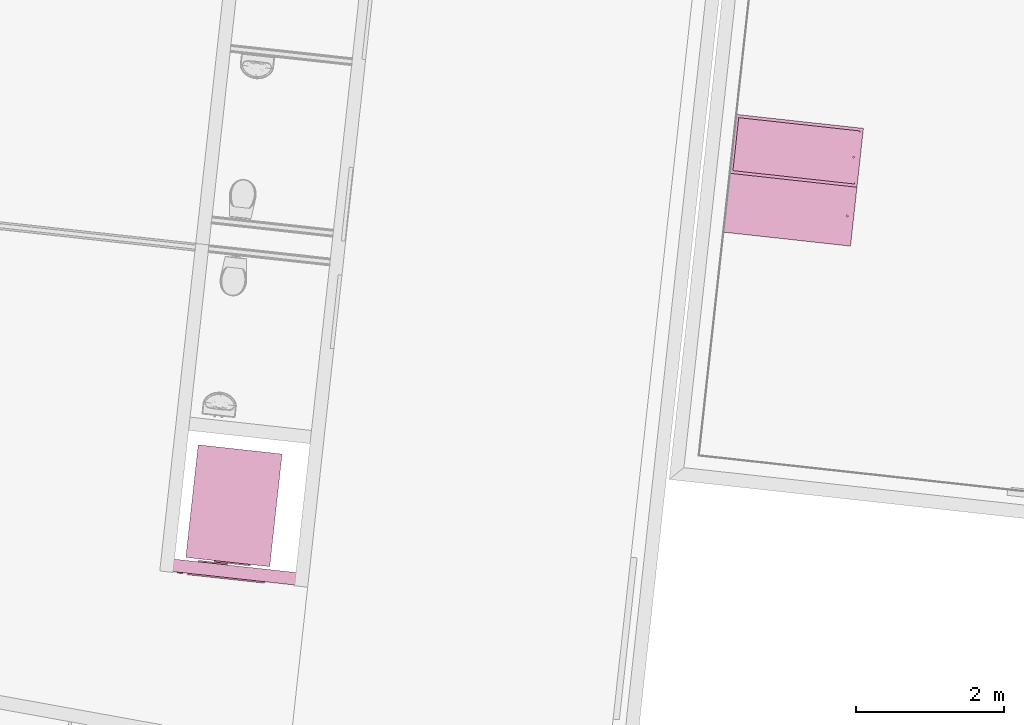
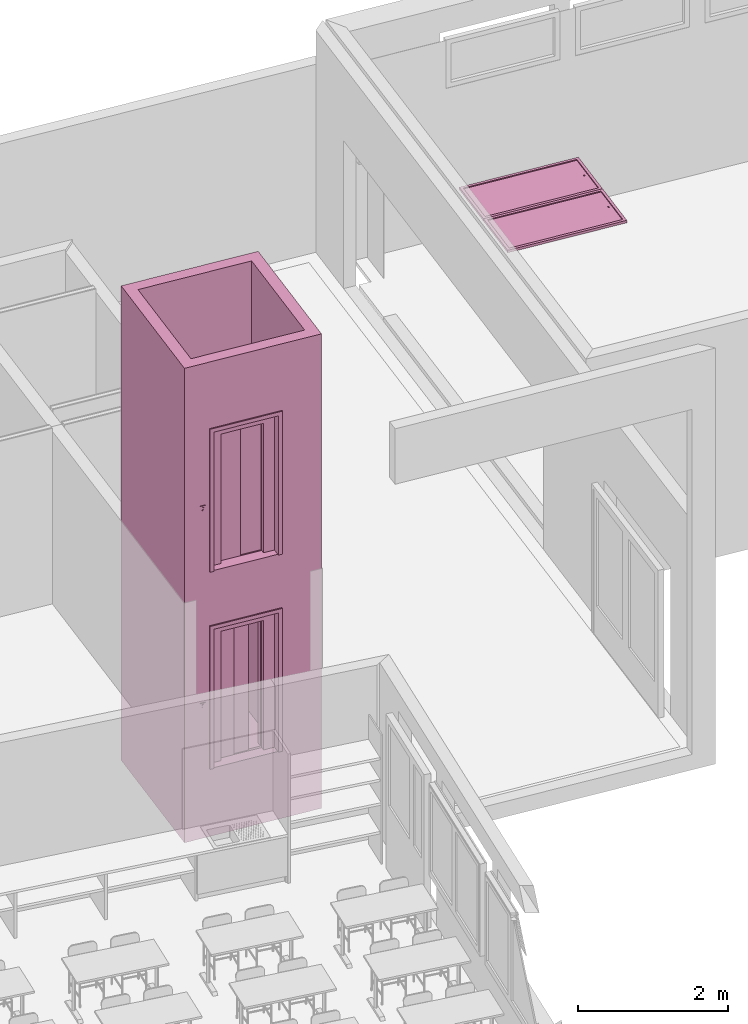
# One storey, part 20 of 79: 2 furnishings, 1 transport element.
"""IFC2X3 building model written with IfcOpenShell, lengths in metres."""

from ifc_helpers import new_model, entity, si_unit, converted_unit, derived_unit, money_unit, direction, frame, origin_with_axes, place, context, subcontext, project, spatial, open_shell, faceted_brep, surface_model, material, type_object, element, save


model = new_model("IFC2X3")

# Units and contexts
model_context = context("Model", 3, precision=1e-05, world=origin_with_axes(), true_north=direction((0.0, 1.0)))
body_context = subcontext(model_context, "Body", "Model", "MODEL_VIEW")
ifc_project = project(units=[si_unit("LENGTHUNIT", "METRE"), si_unit("AREAUNIT", "SQUARE_METRE"), si_unit("VOLUMEUNIT", "CUBIC_METRE"), converted_unit("PLANEANGLEUNIT", "DEGREE", entity("IfcPlaneAngleMeasure", 0.0174532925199), si_unit("PLANEANGLEUNIT", "RADIAN"), dimensions=[0, 0, 0, 0, 0, 0, 0]), money_unit("CHF"), converted_unit("TIMEUNIT", "Year", entity("IfcTimeMeasure", 31556926.0), si_unit("TIMEUNIT", "SECOND"), dimensions=[0, 0, 1, 0, 0, 0, 0]), si_unit("MASSUNIT", "GRAM", prefix="KILO"), si_unit("THERMODYNAMICTEMPERATUREUNIT", "DEGREE_CELSIUS"), si_unit("LUMINOUSINTENSITYUNIT", "LUMEN"), si_unit("ENERGYUNIT", "JOULE", prefix="MEGA"), derived_unit("THERMALCONDUCTANCEUNIT", [(si_unit("POWERUNIT", "WATT"), 1), (si_unit("LENGTHUNIT", "METRE"), -1), (si_unit("THERMODYNAMICTEMPERATUREUNIT", "KELVIN"), -1)]), derived_unit("SPECIFICHEATCAPACITYUNIT", [(si_unit("ENERGYUNIT", "JOULE"), 1), (si_unit("MASSUNIT", "GRAM", prefix="KILO"), -1), (si_unit("THERMODYNAMICTEMPERATUREUNIT", "KELVIN"), -1)]), derived_unit("MASSDENSITYUNIT", [(si_unit("MASSUNIT", "GRAM", prefix="KILO"), 1), (si_unit("VOLUMEUNIT", "CUBIC_METRE"), -1)])], contexts=[model_context])

# Site, building, storey
site_placement = place(None, frame((0.0, 0.0, 0.0), z_axis=(0.0, 0.0, 1.0), x_axis=(-0.177771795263, -0.984071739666, 0.0)))
site = spatial("IfcSite", under=ifc_project, at=site_placement, Name="Site", CompositionType="ELEMENT")
building_placement = place(site_placement, origin_with_axes())
building = spatial("IfcBuilding", under=site, at=building_placement, Name="Bâtiment", CompositionType="ELEMENT")
storey_placement = place(building_placement, origin_with_axes())
storey = spatial("IfcBuildingStorey", under=building, at=storey_placement, Name="RDC", CompositionType="ELEMENT", Elevation=0.0)

# Transport element
ifc_material = material(Name="Matériau de construction IFC")
transport_element_type = type_object("IfcTransportElementType", Name="Ascenseur 21", PredefinedType="NOTDEFINED")
transport_element_placement = place(storey_placement, frame((107.874175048, -150.269297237, 0.0), z_axis=(0.0, 0.0, 1.0), x_axis=(-0.0692640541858, 0.997598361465, 0.0)))
element("IfcTransportElement", 1, at=transport_element_placement, inside=storey, type_object=transport_element_type, material=ifc_material, Name="gabarit PMR", context=body_context, shape_type="Brep", body=[
    faceted_brep([(0.798, 0.23, 0.0), (0.491333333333, 0.23, 0.0), (0.491333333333, 0.23, 2.1), (0.798, 0.23, 2.1), (0.798, 0.21, 0.0), (0.491333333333, 0.21, 0.0), (0.491333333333, 0.21, 2.1), (0.798, 0.21, 2.1)], [[[0, 1, 2, 3]], [[1, 0, 4, 5]], [[2, 1, 5, 6]], [[3, 2, 6, 7]], [[0, 3, 7, 4]], [[5, 4, 7, 6]]]),
    faceted_brep([(1.01266666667, 0.25, 0.0), (0.706, 0.25, 0.0), (0.706, 0.25, 2.1), (1.01266666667, 0.25, 2.1), (1.01266666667, 0.23, 0.0), (0.706, 0.23, 0.0), (0.706, 0.23, 2.1), (1.01266666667, 0.23, 2.1)], [[[0, 1, 2, 3]], [[1, 0, 4, 5]], [[2, 1, 5, 6]], [[3, 2, 6, 7]], [[0, 3, 7, 4]], [[5, 4, 7, 6]]]),
    faceted_brep([(1.19666666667, 0.29, 0.0), (1.38, 0.29, 0.0), (1.38, 1.66, 0.0), (0.4, 1.66, 0.0), (0.4, 0.29, 0.0), (0.583333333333, 0.29, 0.0), (0.583333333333, 0.25, 0.0), (0.32, 0.25, 0.0), (0.32, 1.74, 0.0), (1.46, 1.74, 0.0), (1.46, 0.21, 0.0), (1.19666666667, 0.21, 0.0), (0.4, 0.29, 2.4), (1.38, 0.29, 2.4), (1.19666666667, 0.29, 2.1), (0.583333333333, 0.29, 2.1), (1.38, 1.66, 2.4), (0.4, 1.66, 2.4), (0.583333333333, 0.25, 2.1), (0.32, 0.25, 2.1), (0.32, 0.21, 2.1), (0.32, 0.21, 2.4), (0.32, 1.74, 2.4), (1.46, 1.74, 2.4), (1.46, 0.21, 2.4), (0.89, 0.21, 2.1), (1.19666666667, 0.21, 2.1), (0.89, 0.25, 2.1)], [[[0, 1, 2, 3, 4, 5, 6, 7, 8, 9, 10, 11]], [[12, 13, 1, 0, 14, 15, 5, 4]], [[13, 16, 2, 1]], [[16, 17, 3, 2]], [[17, 12, 4, 3]], [[5, 15, 18, 6]], [[18, 19, 7, 6]], [[19, 20, 21, 22, 8, 7]], [[23, 9, 8, 22]], [[24, 10, 9, 23]], [[21, 20, 25, 26, 11, 10, 24]], [[14, 0, 11, 26]], [[22, 21, 24, 23], [12, 17, 16, 13]], [[15, 14, 26, 25, 27, 18]], [[20, 19, 18, 27, 25]]]),
    faceted_brep([(0.32, 0.21, -0.05), (1.46, 0.21, -0.05), (1.46, 0.21, 0.0), (0.32, 0.21, 0.0), (0.32, 1.74, -0.05), (1.46, 1.74, -0.05), (1.46, 1.74, 0.0), (0.32, 1.74, 0.0)], [[[0, 1, 2, 3]], [[0, 4, 5, 1]], [[1, 5, 6, 2]], [[3, 2, 6, 7]], [[4, 0, 3, 7]], [[5, 4, 7, 6]]]),
    faceted_brep([(0.32, 0.21, 2.4), (1.46, 0.21, 2.4), (1.46, 0.21, 2.45), (0.32, 0.21, 2.45), (0.32, 1.74, 2.4), (1.46, 1.74, 2.4), (1.46, 1.74, 2.45), (0.32, 1.74, 2.45)], [[[0, 1, 2, 3]], [[0, 4, 5, 1]], [[1, 5, 6, 2]], [[3, 2, 6, 7]], [[4, 0, 3, 7]], [[5, 4, 7, 6]]]),
    faceted_brep([(1.38, 0.39, 1.0), (1.38, 0.49, 1.0), (1.38, 0.49, 1.1), (1.38, 0.39, 1.1), (1.37, 0.39, 1.0), (1.37, 0.49, 1.0), (1.37, 0.49, 1.1), (1.37, 0.39, 1.1)], [[[0, 1, 2, 3]], [[1, 0, 4, 5]], [[2, 1, 5, 6]], [[3, 2, 6, 7]], [[0, 3, 7, 4]], [[5, 4, 7, 6]]]),
    faceted_brep([(1.37, 0.470428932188, 1.00542893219), (1.37, 0.470428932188, 1.01957106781), (1.365, 0.471843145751, 1.01815685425), (1.365, 0.471843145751, 1.00684314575), (1.37, 0.484571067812, 1.00542893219), (1.37, 0.484571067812, 1.01957106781), (1.365, 0.483156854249, 1.01815685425), (1.365, 0.483156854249, 1.00684314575)], [[[0, 1, 2, 3]], [[0, 4, 5, 1]], [[1, 5, 6, 2]], [[3, 2, 6, 7]], [[4, 0, 3, 7]], [[5, 4, 7, 6]]]),
    faceted_brep([(1.37, 0.445428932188, 1.00542893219), (1.37, 0.445428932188, 1.01957106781), (1.365, 0.446843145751, 1.01815685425), (1.365, 0.446843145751, 1.00684314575), (1.37, 0.459571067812, 1.00542893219), (1.37, 0.459571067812, 1.01957106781), (1.365, 0.458156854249, 1.01815685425), (1.365, 0.458156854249, 1.00684314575)], [[[0, 1, 2, 3]], [[0, 4, 5, 1]], [[1, 5, 6, 2]], [[3, 2, 6, 7]], [[4, 0, 3, 7]], [[5, 4, 7, 6]]]),
    faceted_brep([(1.37, 0.420428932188, 1.00542893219), (1.37, 0.420428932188, 1.01957106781), (1.365, 0.421843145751, 1.01815685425), (1.365, 0.421843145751, 1.00684314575), (1.37, 0.434571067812, 1.00542893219), (1.37, 0.434571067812, 1.01957106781), (1.365, 0.433156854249, 1.01815685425), (1.365, 0.433156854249, 1.00684314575)], [[[0, 1, 2, 3]], [[0, 4, 5, 1]], [[1, 5, 6, 2]], [[3, 2, 6, 7]], [[4, 0, 3, 7]], [[5, 4, 7, 6]]]),
    faceted_brep([(1.37, 0.395428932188, 1.00542893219), (1.37, 0.395428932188, 1.01957106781), (1.365, 0.396843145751, 1.01815685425), (1.365, 0.396843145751, 1.00684314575), (1.37, 0.409571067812, 1.00542893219), (1.37, 0.409571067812, 1.01957106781), (1.365, 0.408156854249, 1.01815685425), (1.365, 0.408156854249, 1.00684314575)], [[[0, 1, 2, 3]], [[0, 4, 5, 1]], [[1, 5, 6, 2]], [[3, 2, 6, 7]], [[4, 0, 3, 7]], [[5, 4, 7, 6]]]),
    faceted_brep([(1.37, 0.470428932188, 1.08042893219), (1.37, 0.470428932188, 1.09457106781), (1.365, 0.471843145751, 1.09315685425), (1.365, 0.471843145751, 1.08184314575), (1.37, 0.484571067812, 1.08042893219), (1.37, 0.484571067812, 1.09457106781), (1.365, 0.483156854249, 1.09315685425), (1.365, 0.483156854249, 1.08184314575)], [[[0, 1, 2, 3]], [[0, 4, 5, 1]], [[1, 5, 6, 2]], [[3, 2, 6, 7]], [[4, 0, 3, 7]], [[5, 4, 7, 6]]]),
    faceted_brep([(1.37, 0.470428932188, 1.05542893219), (1.37, 0.470428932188, 1.06957106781), (1.365, 0.471843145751, 1.06815685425), (1.365, 0.471843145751, 1.05684314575), (1.37, 0.484571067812, 1.05542893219), (1.37, 0.484571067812, 1.06957106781), (1.365, 0.483156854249, 1.06815685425), (1.365, 0.483156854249, 1.05684314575)], [[[0, 1, 2, 3]], [[0, 4, 5, 1]], [[1, 5, 6, 2]], [[3, 2, 6, 7]], [[4, 0, 3, 7]], [[5, 4, 7, 6]]]),
    faceted_brep([(0.403333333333, 0.17, 3.2), (0.583333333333, 0.17, 3.2), (0.583333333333, 0.11, 3.2), (0.403333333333, 0.11, 3.2), (0.403333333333, 0.17, 5.48), (1.37666666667, 0.17, 5.48), (1.37666666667, 0.17, 3.2), (1.19666666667, 0.17, 3.2), (1.19666666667, 0.17, 5.3), (0.583333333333, 0.17, 5.3), (0.583333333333, 0.11, 5.3), (1.19666666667, 0.11, 5.3), (1.19666666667, 0.11, 3.2), (1.37666666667, 0.11, 3.2), (1.37666666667, 0.11, 5.48), (0.403333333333, 0.11, 5.48)], [[[0, 1, 2, 3]], [[0, 4, 5, 6, 7, 8, 9, 1]], [[1, 9, 10, 2]], [[3, 2, 10, 11, 12, 13, 14, 15]], [[4, 0, 3, 15]], [[5, 4, 15, 14]], [[6, 5, 14, 13]], [[7, 6, 13, 12]], [[8, 7, 12, 11]], [[9, 8, 11, 10]]]),
    faceted_brep([(0.403333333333, 0.11, 3.2), (0.423333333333, 0.11, 3.2), (0.423333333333, 0.0, 3.2), (0.403333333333, 0.0, 3.2), (0.403333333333, 0.11, 5.48), (1.37666666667, 0.11, 5.48), (1.37666666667, 0.11, 3.2), (1.35666666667, 0.11, 3.2), (1.35666666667, 0.11, 5.46), (0.423333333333, 0.11, 5.46), (0.423333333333, 0.0, 5.46), (1.35666666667, 0.0, 5.46), (1.35666666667, 0.0, 3.2), (1.37666666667, 0.0, 3.2), (1.37666666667, 0.0, 5.48), (0.403333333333, 0.0, 5.48)], [[[0, 1, 2, 3]], [[0, 4, 5, 6, 7, 8, 9, 1]], [[1, 9, 10, 2]], [[3, 2, 10, 11, 12, 13, 14, 15]], [[4, 0, 3, 15]], [[5, 4, 15, 14]], [[6, 5, 14, 13]], [[7, 6, 13, 12]], [[8, 7, 12, 11]], [[9, 8, 11, 10]]]),
    faceted_brep([(0.363333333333, 0.0, 3.2), (0.423333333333, 0.0, 3.2), (0.423333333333, -0.02, 3.2), (0.363333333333, -0.02, 3.2), (0.363333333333, 0.0, 5.52), (1.41666666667, 0.0, 5.52), (1.41666666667, 0.0, 3.2), (1.35666666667, 0.0, 3.2), (1.35666666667, 0.0, 5.46), (0.423333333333, 0.0, 5.46), (0.423333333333, -0.02, 5.46), (1.35666666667, -0.02, 5.46), (1.35666666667, -0.02, 3.2), (1.41666666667, -0.02, 3.2), (1.41666666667, -0.02, 5.52), (0.363333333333, -0.02, 5.52)], [[[0, 1, 2, 3]], [[0, 4, 5, 6, 7, 8, 9, 1]], [[1, 9, 10, 2]], [[3, 2, 10, 11, 12, 13, 14, 15]], [[4, 0, 3, 15]], [[5, 4, 15, 14]], [[6, 5, 14, 13]], [[7, 6, 13, 12]], [[8, 7, 12, 11]], [[9, 8, 11, 10]]]),
    faceted_brep([(0.89, 0.19, 3.2), (0.583333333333, 0.19, 3.2), (0.583333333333, 0.19, 5.3), (0.89, 0.19, 5.3), (0.89, 0.17, 3.2), (0.583333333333, 0.17, 3.2), (0.583333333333, 0.17, 5.3), (0.89, 0.17, 5.3)], [[[0, 1, 2, 3]], [[1, 0, 4, 5]], [[2, 1, 5, 6]], [[3, 2, 6, 7]], [[0, 3, 7, 4]], [[5, 4, 7, 6]]]),
    faceted_brep([(1.19666666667, 0.21, 3.2), (0.89, 0.21, 3.2), (0.89, 0.21, 5.3), (1.19666666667, 0.21, 5.3), (1.19666666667, 0.19, 3.2), (0.89, 0.19, 3.2), (0.89, 0.19, 5.3), (1.19666666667, 0.19, 5.3)], [[[0, 1, 2, 3]], [[1, 0, 4, 5]], [[2, 1, 5, 6]], [[3, 2, 6, 7]], [[0, 3, 7, 4]], [[5, 4, 7, 6]]]),
    faceted_brep([(0.303333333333, 0.0, 4.2), (0.223333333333, 0.0, 4.2), (0.223333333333, 0.0, 4.3), (0.303333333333, 0.0, 4.3), (0.303333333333, -0.01, 4.2), (0.223333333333, -0.01, 4.2), (0.223333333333, -0.01, 4.3), (0.303333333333, -0.01, 4.3)], [[[0, 1, 2, 3]], [[1, 0, 4, 5]], [[2, 1, 5, 6]], [[3, 2, 6, 7]], [[0, 3, 7, 4]], [[5, 4, 7, 6]]]),
    faceted_brep([(0.258333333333, -0.01, 4.28), (0.258333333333, -0.012, 4.28), (0.268333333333, -0.012, 4.28), (0.268333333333, -0.01, 4.28), (0.258333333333, -0.01, 4.268), (0.258333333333, -0.012, 4.268), (0.249333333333, -0.012, 4.268), (0.263333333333, -0.012, 4.253), (0.277333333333, -0.012, 4.268), (0.268333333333, -0.012, 4.268), (0.268333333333, -0.01, 4.268), (0.277333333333, -0.01, 4.268), (0.263333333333, -0.01, 4.253), (0.249333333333, -0.01, 4.268)], [[[0, 1, 2, 3]], [[4, 5, 1, 0]], [[1, 5, 6, 7, 8, 9, 2]], [[3, 2, 9, 10]], [[0, 3, 10, 11, 12, 13, 4]], [[13, 6, 5, 4]], [[12, 7, 6, 13]], [[11, 8, 7, 12]], [[10, 9, 8, 11]]]),
    faceted_brep([(0.273725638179, -0.01, 4.224), (0.275333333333, -0.01, 4.23), (0.273333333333, -0.016, 4.23), (0.271993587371, -0.016, 4.225), (0.269333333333, -0.01, 4.21960769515), (0.263333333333, -0.01, 4.218), (0.257333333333, -0.01, 4.21960769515), (0.252941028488, -0.01, 4.224), (0.251333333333, -0.01, 4.23), (0.252941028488, -0.01, 4.236), (0.257333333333, -0.01, 4.24039230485), (0.263333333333, -0.01, 4.242), (0.269333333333, -0.01, 4.24039230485), (0.273725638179, -0.01, 4.236), (0.271993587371, -0.016, 4.235), (0.268333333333, -0.016, 4.23866025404), (0.263333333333, -0.016, 4.24), (0.258333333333, -0.016, 4.23866025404), (0.254673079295, -0.016, 4.235), (0.253333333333, -0.016, 4.23), (0.254673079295, -0.016, 4.225), (0.258333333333, -0.016, 4.22133974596), (0.263333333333, -0.016, 4.22), (0.268333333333, -0.016, 4.22133974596)], [[[0, 1, 2, 3]], [[0, 4, 5, 6, 7, 8, 9, 10, 11, 12, 13, 1]], [[1, 13, 14, 2]], [[3, 2, 14, 15, 16, 17, 18, 19, 20, 21, 22, 23]], [[4, 0, 3, 23]], [[5, 4, 23, 22]], [[6, 5, 22, 21]], [[7, 6, 21, 20]], [[8, 7, 20, 19]], [[9, 8, 19, 18]], [[10, 9, 18, 17]], [[11, 10, 17, 16]], [[12, 11, 16, 15]], [[13, 12, 15, 14]]]),
    faceted_brep([(1.37666666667, 0.17, 3.2), (1.82, 0.17, 3.2), (1.82, 1.92, 3.2), (0.17, 1.92, 3.2), (0.17, 0.17, 3.2), (0.403333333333, 0.17, 3.2), (0.403333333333, 0.0, 3.2), (0.0, 0.0, 3.2), (0.0, 2.09, 3.2), (1.99, 2.09, 3.2), (1.99, 0.0, 3.2), (1.37666666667, 0.0, 3.2), (0.17, 0.17, 6.55), (1.82, 0.17, 6.55), (1.37666666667, 0.17, 5.48), (0.403333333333, 0.17, 5.48), (1.82, 1.92, 6.55), (0.17, 1.92, 6.55), (0.403333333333, 0.0, 5.48), (1.37666666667, 0.0, 5.48), (1.99, 0.0, 6.55), (0.0, 0.0, 6.55), (0.0, 2.09, 6.55), (1.99, 2.09, 6.55)], [[[0, 1, 2, 3, 4, 5, 6, 7, 8, 9, 10, 11]], [[12, 13, 1, 0, 14, 15, 5, 4]], [[13, 16, 2, 1]], [[16, 17, 3, 2]], [[17, 12, 4, 3]], [[5, 15, 18, 6]], [[7, 6, 18, 19, 11, 10, 20, 21]], [[21, 22, 8, 7]], [[22, 23, 9, 8]], [[23, 20, 10, 9]], [[14, 0, 11, 19]], [[23, 22, 21, 20], [12, 17, 16, 13]], [[15, 14, 19, 18]]]),
    faceted_brep([(0.403333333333, 0.17, 0.0), (0.583333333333, 0.17, 0.0), (0.583333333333, 0.11, 0.0), (0.403333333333, 0.11, 0.0), (0.403333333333, 0.17, 2.28), (1.37666666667, 0.17, 2.28), (1.37666666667, 0.17, 0.0), (1.19666666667, 0.17, 0.0), (1.19666666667, 0.17, 2.1), (0.583333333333, 0.17, 2.1), (0.583333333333, 0.11, 2.1), (1.19666666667, 0.11, 2.1), (1.19666666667, 0.11, 0.0), (1.37666666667, 0.11, 0.0), (1.37666666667, 0.11, 2.28), (0.403333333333, 0.11, 2.28)], [[[0, 1, 2, 3]], [[0, 4, 5, 6, 7, 8, 9, 1]], [[1, 9, 10, 2]], [[3, 2, 10, 11, 12, 13, 14, 15]], [[4, 0, 3, 15]], [[5, 4, 15, 14]], [[6, 5, 14, 13]], [[7, 6, 13, 12]], [[8, 7, 12, 11]], [[9, 8, 11, 10]]]),
    faceted_brep([(0.403333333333, 0.11, 0.0), (0.423333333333, 0.11, 0.0), (0.423333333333, 0.0, 0.0), (0.403333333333, 0.0, 0.0), (0.403333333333, 0.11, 2.28), (1.37666666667, 0.11, 2.28), (1.37666666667, 0.11, 0.0), (1.35666666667, 0.11, 0.0), (1.35666666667, 0.11, 2.26), (0.423333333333, 0.11, 2.26), (0.423333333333, 0.0, 2.26), (1.35666666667, 0.0, 2.26), (1.35666666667, 0.0, 0.0), (1.37666666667, 0.0, 0.0), (1.37666666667, 0.0, 2.28), (0.403333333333, 0.0, 2.28)], [[[0, 1, 2, 3]], [[0, 4, 5, 6, 7, 8, 9, 1]], [[1, 9, 10, 2]], [[3, 2, 10, 11, 12, 13, 14, 15]], [[4, 0, 3, 15]], [[5, 4, 15, 14]], [[6, 5, 14, 13]], [[7, 6, 13, 12]], [[8, 7, 12, 11]], [[9, 8, 11, 10]]]),
    faceted_brep([(0.363333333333, 0.0, 0.0), (0.423333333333, 0.0, 0.0), (0.423333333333, -0.02, 0.0), (0.363333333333, -0.02, 0.0), (0.363333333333, 0.0, 2.32), (1.41666666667, 0.0, 2.32), (1.41666666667, 0.0, 0.0), (1.35666666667, 0.0, 0.0), (1.35666666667, 0.0, 2.26), (0.423333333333, 0.0, 2.26), (0.423333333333, -0.02, 2.26), (1.35666666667, -0.02, 2.26), (1.35666666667, -0.02, 0.0), (1.41666666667, -0.02, 0.0), (1.41666666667, -0.02, 2.32), (0.363333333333, -0.02, 2.32)], [[[0, 1, 2, 3]], [[0, 4, 5, 6, 7, 8, 9, 1]], [[1, 9, 10, 2]], [[3, 2, 10, 11, 12, 13, 14, 15]], [[4, 0, 3, 15]], [[5, 4, 15, 14]], [[6, 5, 14, 13]], [[7, 6, 13, 12]], [[8, 7, 12, 11]], [[9, 8, 11, 10]]]),
    faceted_brep([(0.798, 0.19, 0.0), (0.491333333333, 0.19, 0.0), (0.491333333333, 0.19, 2.1), (0.798, 0.19, 2.1), (0.798, 0.17, 0.0), (0.491333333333, 0.17, 0.0), (0.491333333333, 0.17, 2.1), (0.798, 0.17, 2.1)], [[[0, 1, 2, 3]], [[1, 0, 4, 5]], [[2, 1, 5, 6]], [[3, 2, 6, 7]], [[0, 3, 7, 4]], [[5, 4, 7, 6]]]),
    faceted_brep([(1.01266666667, 0.21, 0.0), (0.706, 0.21, 0.0), (0.706, 0.21, 2.1), (1.01266666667, 0.21, 2.1), (1.01266666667, 0.19, 0.0), (0.706, 0.19, 0.0), (0.706, 0.19, 2.1), (1.01266666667, 0.19, 2.1)], [[[0, 1, 2, 3]], [[1, 0, 4, 5]], [[2, 1, 5, 6]], [[3, 2, 6, 7]], [[0, 3, 7, 4]], [[5, 4, 7, 6]]]),
    faceted_brep([(0.303333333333, 0.0, 1.0), (0.223333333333, 0.0, 1.0), (0.223333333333, 0.0, 1.1), (0.303333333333, 0.0, 1.1), (0.303333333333, -0.01, 1.0), (0.223333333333, -0.01, 1.0), (0.223333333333, -0.01, 1.1), (0.303333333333, -0.01, 1.1)], [[[0, 1, 2, 3]], [[1, 0, 4, 5]], [[2, 1, 5, 6]], [[3, 2, 6, 7]], [[0, 3, 7, 4]], [[5, 4, 7, 6]]]),
    faceted_brep([(0.258333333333, -0.01, 1.02), (0.268333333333, -0.01, 1.02), (0.268333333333, -0.012, 1.02), (0.258333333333, -0.012, 1.02), (0.258333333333, -0.01, 1.032), (0.249333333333, -0.01, 1.032), (0.263333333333, -0.01, 1.047), (0.277333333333, -0.01, 1.032), (0.268333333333, -0.01, 1.032), (0.268333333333, -0.012, 1.032), (0.277333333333, -0.012, 1.032), (0.263333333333, -0.012, 1.047), (0.249333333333, -0.012, 1.032), (0.258333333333, -0.012, 1.032)], [[[0, 1, 2, 3]], [[0, 4, 5, 6, 7, 8, 1]], [[1, 8, 9, 2]], [[3, 2, 9, 10, 11, 12, 13]], [[4, 0, 3, 13]], [[5, 4, 13, 12]], [[6, 5, 12, 11]], [[7, 6, 11, 10]], [[8, 7, 10, 9]]]),
    faceted_brep([(0.273725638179, -0.01, 1.064), (0.275333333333, -0.01, 1.07), (0.273333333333, -0.016, 1.07), (0.271993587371, -0.016, 1.065), (0.269333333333, -0.01, 1.05960769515), (0.263333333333, -0.01, 1.058), (0.257333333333, -0.01, 1.05960769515), (0.252941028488, -0.01, 1.064), (0.251333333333, -0.01, 1.07), (0.252941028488, -0.01, 1.076), (0.257333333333, -0.01, 1.08039230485), (0.263333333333, -0.01, 1.082), (0.269333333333, -0.01, 1.08039230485), (0.273725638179, -0.01, 1.076), (0.271993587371, -0.016, 1.075), (0.268333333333, -0.016, 1.07866025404), (0.263333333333, -0.016, 1.08), (0.258333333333, -0.016, 1.07866025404), (0.254673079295, -0.016, 1.075), (0.253333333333, -0.016, 1.07), (0.254673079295, -0.016, 1.065), (0.258333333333, -0.016, 1.06133974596), (0.263333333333, -0.016, 1.06), (0.268333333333, -0.016, 1.06133974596)], [[[0, 1, 2, 3]], [[0, 4, 5, 6, 7, 8, 9, 10, 11, 12, 13, 1]], [[1, 13, 14, 2]], [[3, 2, 14, 15, 16, 17, 18, 19, 20, 21, 22, 23]], [[4, 0, 3, 23]], [[5, 4, 23, 22]], [[6, 5, 22, 21]], [[7, 6, 21, 20]], [[8, 7, 20, 19]], [[9, 8, 19, 18]], [[10, 9, 18, 17]], [[11, 10, 17, 16]], [[12, 11, 16, 15]], [[13, 12, 15, 14]]]),
    faceted_brep([(1.37666666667, 0.17, 0.0), (1.82, 0.17, 0.0), (1.82, 1.92, 0.0), (0.17, 1.92, 0.0), (0.17, 0.17, 0.0), (0.403333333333, 0.17, 0.0), (0.403333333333, 0.0, 0.0), (0.0, 0.0, 0.0), (0.0, 2.09, 0.0), (1.99, 2.09, 0.0), (1.99, 0.0, 0.0), (1.37666666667, 0.0, 0.0), (0.17, 0.17, 3.2), (1.82, 0.17, 3.2), (1.37666666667, 0.17, 2.28), (0.403333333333, 0.17, 2.28), (1.82, 1.92, 3.2), (0.17, 1.92, 3.2), (0.403333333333, 0.0, 2.28), (1.37666666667, 0.0, 2.28), (1.99, 0.0, 3.2), (0.0, 0.0, 3.2), (0.0, 2.09, 3.2), (1.99, 2.09, 3.2)], [[[0, 1, 2, 3, 4, 5, 6, 7, 8, 9, 10, 11]], [[12, 13, 1, 0, 14, 15, 5, 4]], [[13, 16, 2, 1]], [[16, 17, 3, 2]], [[17, 12, 4, 3]], [[5, 15, 18, 6]], [[7, 6, 18, 19, 11, 10, 20, 21]], [[21, 22, 8, 7]], [[22, 23, 9, 8]], [[23, 20, 10, 9]], [[14, 0, 11, 19]], [[23, 22, 21, 20], [12, 17, 16, 13]], [[15, 14, 19, 18]]]),
    faceted_brep([(0.0, 2.09, 6.55), (1.99, 2.09, 6.55), (1.99, 0.0, 6.55), (0.0, 0.0, 6.55), (0.17, 0.17, 6.55), (1.82, 0.17, 6.55), (1.82, 1.92, 6.55), (0.17, 1.92, 6.55), (0.0, 2.09, 6.6), (1.99, 2.09, 6.6), (1.99, 0.0, 6.6), (0.0, 0.0, 6.6), (0.17, 0.17, 6.6), (1.82, 0.17, 6.6), (1.82, 1.92, 6.6), (0.17, 1.92, 6.6)], [[[0, 1, 2, 3], [4, 5, 6, 7]], [[0, 8, 9, 1]], [[1, 9, 10, 2]], [[2, 10, 11, 3]], [[3, 11, 8, 0]], [[12, 13, 5, 4]], [[13, 14, 6, 5]], [[14, 15, 7, 6]], [[15, 12, 4, 7]], [[10, 9, 8, 11], [12, 15, 14, 13]]]),
    faceted_brep([(0.0, 2.09, -1.1), (1.99, 2.09, -1.1), (1.99, 0.0, -1.1), (0.0, 0.0, -1.1), (0.17, 0.17, -1.1), (1.82, 0.17, -1.1), (1.82, 1.92, -1.1), (0.17, 1.92, -1.1), (0.0, 2.09, 0.0), (1.99, 2.09, 0.0), (1.99, 0.0, 0.0), (0.0, 0.0, 0.0), (0.17, 0.17, 0.0), (1.82, 0.17, 0.0), (1.82, 1.92, 0.0), (0.17, 1.92, 0.0)], [[[0, 1, 2, 3], [4, 5, 6, 7]], [[0, 8, 9, 1]], [[1, 9, 10, 2]], [[2, 10, 11, 3]], [[3, 11, 8, 0]], [[12, 13, 5, 4]], [[13, 14, 6, 5]], [[14, 15, 7, 6]], [[15, 12, 4, 7]], [[10, 9, 8, 11], [12, 15, 14, 13]]]),
])

# Furnishings
furnishing_element_type = type_object("IfcFurnishingElementType", Name="Trappe-visite-plfd_JM")
furnishing_1_placement = place(storey_placement, frame((101.230704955, -143.658537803, 3.05), z_axis=(0.0, 0.0, 1.0), x_axis=(0.997598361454, 0.0692640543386, 0.0)))
element("IfcFurnishingElement", 2, at=furnishing_1_placement, inside=storey, type_object=furnishing_element_type, material=ifc_material, Name="trappe_VMC", ObjectType="SYSTEM_FURNITURE", context=body_context, shape_type="SurfaceModel", body=[
    surface_model("IfcShellBasedSurfaceModel", [(0.0, 0.0, 0.035), (0.0, 1.73, 0.035), (0.8, 1.73, 0.035), (0.8, 0.0, 0.035), (0.04, 0.04, 0.035), (0.76, 0.04, 0.035), (0.76, 1.69, 0.035), (0.04, 1.69, 0.035)], [open_shell([[[0, 1, 2, 3], [4, 5, 6, 7]]])]),
    faceted_brep([(0.0, 0.0, -0.005), (0.8, 0.0, -0.005), (0.8, 0.0, 0.035), (0.0, 0.0, 0.035), (0.0, 1.73, -0.005), (0.8, 1.73, -0.005), (0.04, 0.04, -0.005), (0.76, 0.04, -0.005), (0.76, 1.69, -0.005), (0.04, 1.69, -0.005), (0.8, 1.73, 0.035), (0.0, 1.73, 0.035), (0.04, 0.04, 0.035), (0.04, 1.69, 0.035), (0.76, 1.69, 0.035), (0.76, 0.04, 0.035)], [[[0, 1, 2, 3]], [[0, 4, 5, 1], [6, 7, 8, 9]], [[1, 5, 10, 2]], [[3, 2, 10, 11], [12, 13, 14, 15]], [[4, 0, 3, 11]], [[5, 4, 11, 10]], [[7, 6, 12, 15]], [[8, 7, 15, 14]], [[9, 8, 14, 13]], [[6, 9, 13, 12]]]),
    faceted_brep([(0.04, 0.04, 0.0), (0.76, 0.04, 0.0), (0.76, 0.04, 0.02), (0.04, 0.04, 0.02), (0.04, 1.69, 0.0), (0.76, 1.69, 0.0), (0.39, 1.63, 0.0), (0.41, 1.63, 0.0), (0.41, 1.65, 0.0), (0.39, 1.65, 0.0), (0.76, 1.69, 0.02), (0.04, 1.69, 0.02), (0.39, 1.63, 0.02), (0.39, 1.65, 0.02), (0.41, 1.65, 0.02), (0.41, 1.63, 0.02)], [[[0, 1, 2, 3]], [[0, 4, 5, 1], [6, 7, 8, 9]], [[1, 5, 10, 2]], [[3, 2, 10, 11], [12, 13, 14, 15]], [[4, 0, 3, 11]], [[5, 4, 11, 10]], [[7, 6, 12, 15]], [[8, 7, 15, 14]], [[9, 8, 14, 13]], [[6, 9, 13, 12]]]),
])
furnishing_2_placement = place(storey_placement, frame((101.110878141, -141.932692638, 3.05), z_axis=(0.0, 0.0, 1.0), x_axis=(-0.997598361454, -0.0692640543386, 0.0)))
element("IfcFurnishingElement", 3, at=furnishing_2_placement, inside=storey, type_object=furnishing_element_type, material=ifc_material, Name="trappe_VMC", ObjectType="SYSTEM_FURNITURE", context=body_context, shape_type="SurfaceModel", body=[
    surface_model("IfcShellBasedSurfaceModel", [(0.0, 0.0, 0.035), (0.0, 1.73, 0.035), (0.8, 1.73, 0.035), (0.8, 0.0, 0.035), (0.04, 0.04, 0.035), (0.76, 0.04, 0.035), (0.76, 1.69, 0.035), (0.04, 1.69, 0.035)], [open_shell([[[0, 1, 2, 3], [4, 5, 6, 7]]])]),
    faceted_brep([(0.0, 0.0, -0.005), (0.8, 0.0, -0.005), (0.8, 0.0, 0.035), (0.0, 0.0, 0.035), (0.0, 1.73, -0.005), (0.8, 1.73, -0.005), (0.04, 0.04, -0.005), (0.76, 0.04, -0.005), (0.76, 1.69, -0.005), (0.04, 1.69, -0.005), (0.8, 1.73, 0.035), (0.0, 1.73, 0.035), (0.04, 0.04, 0.035), (0.04, 1.69, 0.035), (0.76, 1.69, 0.035), (0.76, 0.04, 0.035)], [[[0, 1, 2, 3]], [[0, 4, 5, 1], [6, 7, 8, 9]], [[1, 5, 10, 2]], [[3, 2, 10, 11], [12, 13, 14, 15]], [[4, 0, 3, 11]], [[5, 4, 11, 10]], [[7, 6, 12, 15]], [[8, 7, 15, 14]], [[9, 8, 14, 13]], [[6, 9, 13, 12]]]),
    faceted_brep([(0.04, 0.04, 0.0), (0.76, 0.04, 0.0), (0.76, 0.04, 0.02), (0.04, 0.04, 0.02), (0.04, 1.69, 0.0), (0.76, 1.69, 0.0), (0.39, 0.08, 0.0), (0.41, 0.08, 0.0), (0.41, 0.1, 0.0), (0.39, 0.1, 0.0), (0.76, 1.69, 0.02), (0.04, 1.69, 0.02), (0.39, 0.08, 0.02), (0.39, 0.1, 0.02), (0.41, 0.1, 0.02), (0.41, 0.08, 0.02)], [[[0, 1, 2, 3]], [[0, 4, 5, 1], [6, 7, 8, 9]], [[1, 5, 10, 2]], [[3, 2, 10, 11], [12, 13, 14, 15]], [[4, 0, 3, 11]], [[5, 4, 11, 10]], [[7, 6, 12, 15]], [[8, 7, 15, 14]], [[9, 8, 14, 13]], [[6, 9, 13, 12]]]),
])

save(model, "model.ifc")
